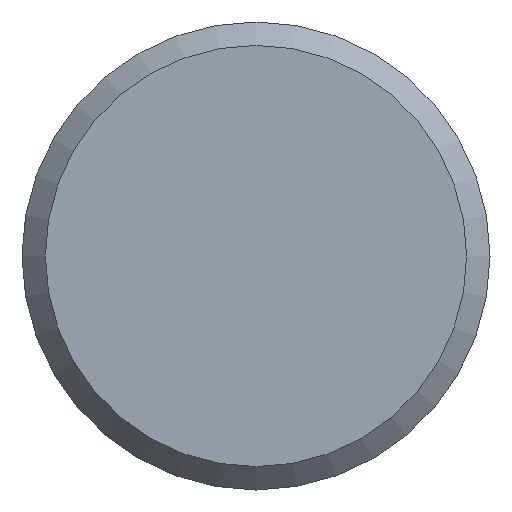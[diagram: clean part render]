
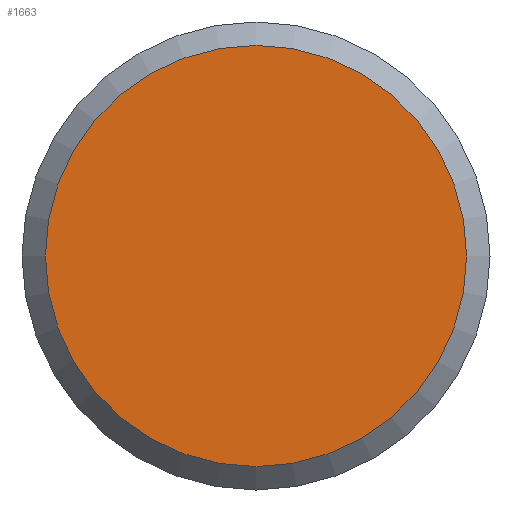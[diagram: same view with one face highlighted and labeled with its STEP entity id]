
A CAD part, left-side view. The second image highlights one B-rep face of the part: STEP entity #1663.
In plain terms, the highlighted planar face has unit normal (-1, 0, 0).
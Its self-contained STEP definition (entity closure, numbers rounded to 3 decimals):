
#616=PLANE('',#1549);
#650=ORIENTED_EDGE('',*,*,#868,.F.);
#758=CIRCLE('',#1548,4.5);
#813=VERTEX_POINT('',#1379);
#868=EDGE_CURVE('',#813,#813,#758,.T.);
#925=EDGE_LOOP('',(#650));
#1035=FACE_BOUND('',#925,.T.);
#1149=DIRECTION('',(1.,0.,0.));
#1150=DIRECTION('',(0.,-4.5,0.));
#1151=DIRECTION('',(-1.,0.,0.));
#1152=DIRECTION('',(0.,1.,0.));
#1379=CARTESIAN_POINT('',(47.035,138.89,0.));
#1380=CARTESIAN_POINT('',(47.035,143.39,0.));
#1381=CARTESIAN_POINT('',(47.035,143.39,0.));
#1548=AXIS2_PLACEMENT_3D('',#1380,#1149,#1150);
#1549=AXIS2_PLACEMENT_3D('',#1381,#1151,#1152);
#1663=ADVANCED_FACE('',(#1035),#616,.T.);
